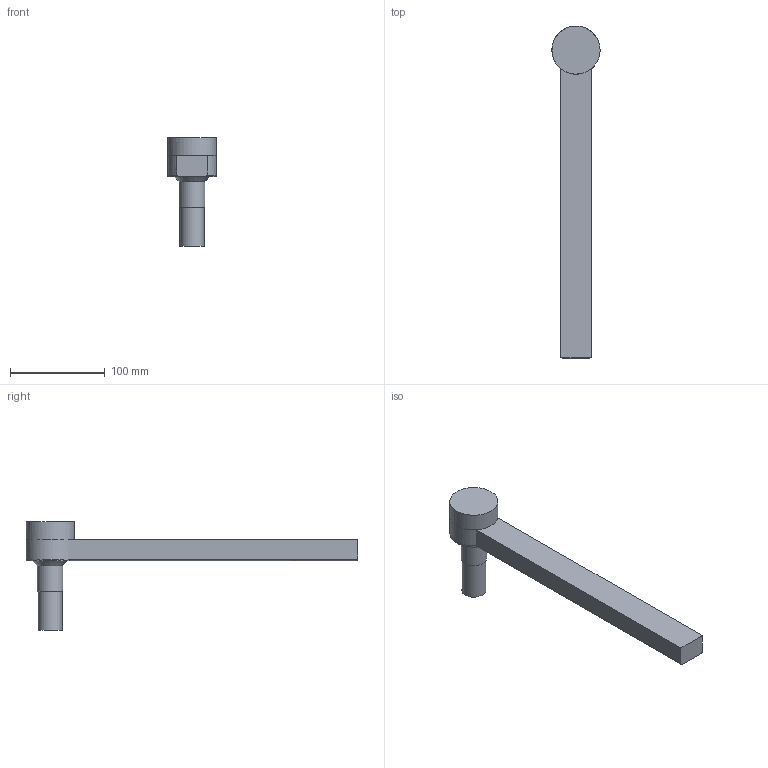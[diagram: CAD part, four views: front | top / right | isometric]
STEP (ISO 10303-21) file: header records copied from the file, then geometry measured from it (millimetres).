
FILE_DESCRIPTION(/* description */ (''),/* implementation_level */ '2;1');
FILE_NAME(/* name */ 'B0491TRUPas.stp',/* time_stamp */ '2019-10-02T15:53:03-04:00',/* author */ (''),/* organization */ (''),/* preprocessor_version */ 'ST-DEVELOPER v16',/* originating_system */ 'SIEMENS PLM Software NX 11.0',/* authorisation */ '');
FILE_SCHEMA (('AUTOMOTIVE_DESIGN { 1 0 10303 214 3 1 1 1 }'));
Length unit declared in the file: inch
Products named in the file (3): B04XX_SubSolid; B0491TRUPd; B0491TRUPas
Assembly tree (2 placements, depth 2):
  B0491TRUPas
    B0491TRUPd
    B04XX_SubSolid
Bounding box: 50.91 x 350.87 x 115.09 mm (x, y, z)
Volume: 409889.1 mm3; surface area: 65205.9 mm2
Topology: 2 solids, 3 shells, 34 faces, 72 edges, 45 vertices
Faces by surface type: plane 13, cylinder 10, cone 6, torus 3, sphere 1, revolution 1
Full cylindrical faces by diameter (mm): 8.731 x2, 25.4 x2, 26.987 x1, 50.927 x1
Entity records: 874 total; most frequent: CARTESIAN_POINT 167, DIRECTION 142, ORIENTED_EDGE 96, AXIS2_PLACEMENT_3D 62, EDGE_LOOP 54, EDGE_CURVE 48, FACE_BOUND 45, VERTEX_POINT 40
